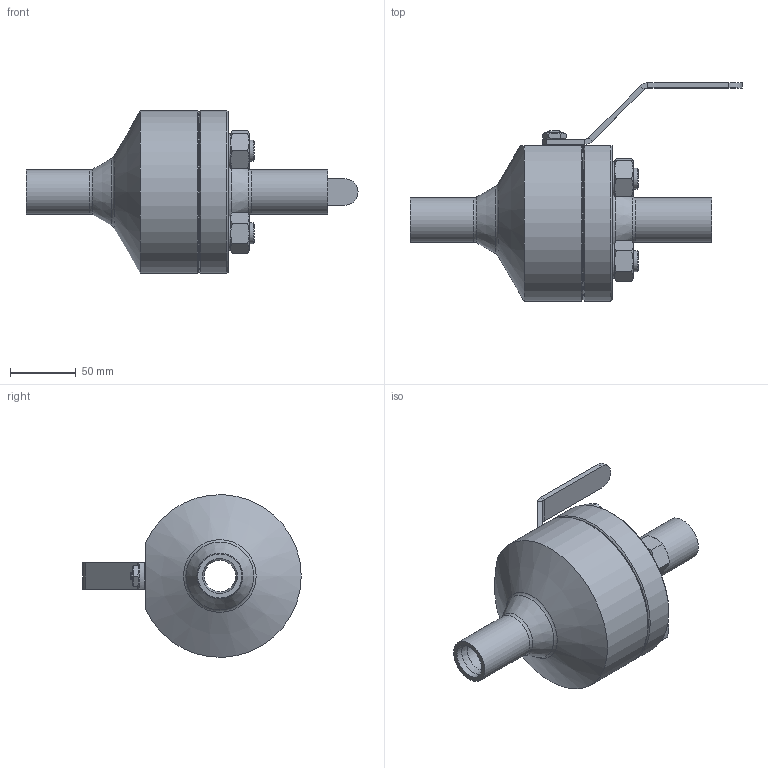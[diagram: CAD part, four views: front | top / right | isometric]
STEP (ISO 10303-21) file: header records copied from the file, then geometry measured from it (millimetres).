
FILE_DESCRIPTION((''),'2;1');
FILE_NAME('C:\Users\Bartek\Desktop\Nowy folder (2)\Nowy folder (22)\WK5b\WK5bc DN25 PN100_Substitute_1.stp','2024-09-16T14:44:28',('Bartek'),(''),'Autodesk Inventor 2012','Autodesk Inventor 2012','');
FILE_SCHEMA(('AUTOMOTIVE_DESIGN { 1 0 10303 214 1 1 1 1 }'));
Length unit declared in the file: millimetre
Products named in the file (1): WK5bc DN25 PN100_Substitute_1
Bounding box: 253 x 166.5 x 123.89 mm (x, y, z)
Volume: 1023036.8 mm3; surface area: 113403.2 mm2
Topology: 1 solids, 1 shells, 186 faces, 415 edges, 249 vertices
Faces by surface type: plane 82, cone 68, cylinder 32, torus 4
Full cylindrical faces by diameter (mm): 16 x4, 24 x1, 26 x4, 26.5 x2, 33.7 x2, 68 x1
Entity records: 4945 total; most frequent: CARTESIAN_POINT 1066, DIRECTION 764, ORIENTED_EDGE 762, EDGE_CURVE 381, AXIS2_PLACEMENT_3D 323, VERTEX_POINT 244, EDGE_LOOP 235, FACE_OUTER_BOUND 186
